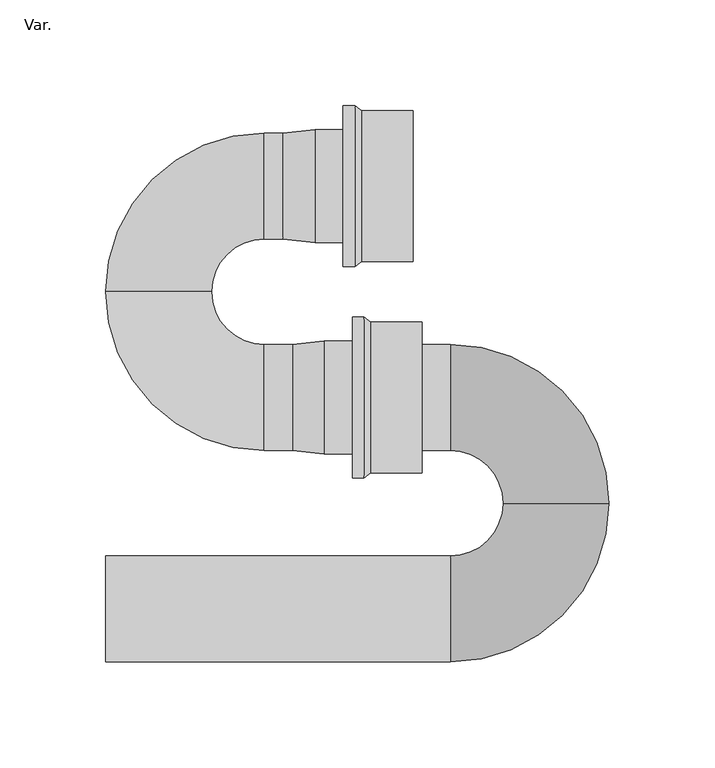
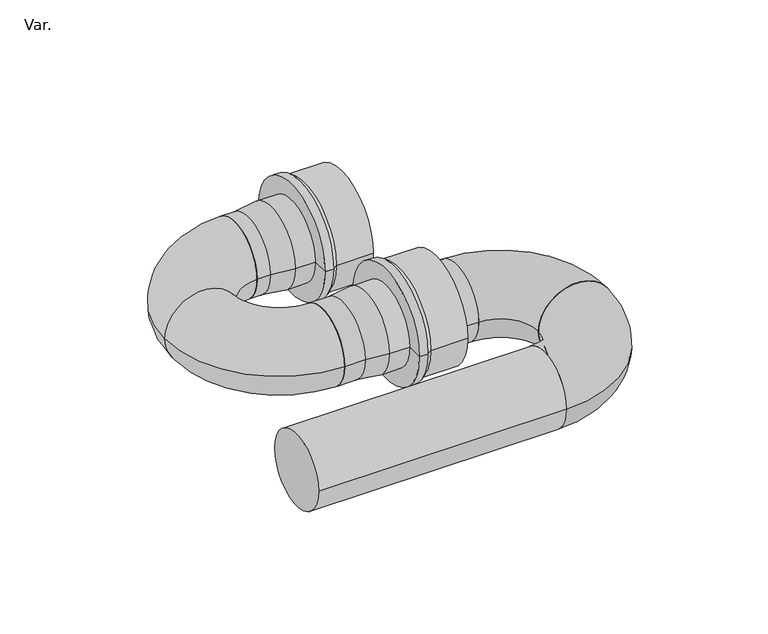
"""IFC4 building model written with IfcOpenShell, lengths in millimetres: pipe fitting geometry, PIF_HDPE s trap_Akatherm : Var.."""

from ifc_helpers import new_model, si_unit, point, frame, origin, place, context, project, spatial, polyline, circle_curve, ellipse_curve, trimmed, source, transform, mapped, element, save
from ifc_brep_helpers import plane_surface, cylinder_surface, revolved_surface, advanced_brep


def var_89c93119(model_context):
    return source(origin(), model_context, "Body", "AdvancedBrep", [
        advanced_brep(
        [(-7.5, 226.75, 0.0), (-7.5, 173.25, 0.0), (-22.5, 175.0, 0.0), (-22.5, 225.0, 0.0), (5.8, 226.75, 0.0), (5.8, 173.25, 0.0), (5.8, 238.0, 0.0), (5.8, 162.0, 0.0), (11.4, 238.0, 0.0), (11.4, 162.0, 0.0), (14.5, 235.75, 0.0), (14.5, 164.25, 0.0), (38.8, 235.75, 0.0), (38.8, 164.25, 0.0), (38.8, 200.0, 0.0), (-31.5, 175.0, 0.0), (-31.5, 225.0, 0.0)],
        [
            (0, 1, circle_curve(frame((-7.5, 200.0, 0.0), z_axis=(-1.0, 0.0, 0.0), x_axis=(0.0, -1.0, 0.0)), 26.75)),
            (1, 2),
            (2, 3, circle_curve(frame((-22.5, 200.0, 0.0), z_axis=(1.0, 0.0, 0.0), x_axis=(0.0, -1.0, 0.0)), 25.0)),
            (3, 0),
            (1, 0, circle_curve(frame((-7.5, 200.0, 0.0), z_axis=(-1.0, 0.0, 0.0), x_axis=(0.0, -1.0, 0.0)), 26.75)),
            (3, 2, circle_curve(frame((-22.5, 200.0, 0.0), z_axis=(1.0, 0.0, 0.0), x_axis=(0.0, -1.0, 0.0)), 25.0)),
            (0, 4),
            (4, 5, circle_curve(frame((5.8, 200.0, 0.0), z_axis=(-1.0, 0.0, 0.0), x_axis=(0.0, -1.0, 0.0)), 26.75)),
            (5, 1),
            (5, 4, circle_curve(frame((5.8, 200.0, 0.0), z_axis=(-1.0, 0.0, 0.0), x_axis=(0.0, -1.0, 0.0)), 26.75)),
            (4, 6),
            (6, 7, circle_curve(frame((5.8, 200.0, 0.0), z_axis=(-1.0, 0.0, 0.0), x_axis=(0.0, -1.0, 0.0)), 38.0)),
            (7, 5),
            (7, 6, circle_curve(frame((5.8, 200.0, 0.0), z_axis=(-1.0, 0.0, 0.0), x_axis=(0.0, -1.0, 0.0)), 38.0)),
            (6, 8),
            (8, 9, circle_curve(frame((11.4, 200.0, 0.0), z_axis=(-1.0, 0.0, 0.0), x_axis=(0.0, -1.0, 0.0)), 38.0)),
            (9, 7),
            (9, 8, circle_curve(frame((11.4, 200.0, 0.0), z_axis=(-1.0, 0.0, 0.0), x_axis=(0.0, -1.0, 0.0)), 38.0)),
            (8, 10),
            (10, 11, circle_curve(frame((14.5, 200.0, 0.0), z_axis=(-1.0, 0.0, 0.0), x_axis=(0.0, -1.0, 0.0)), 35.75)),
            (11, 9),
            (11, 10, circle_curve(frame((14.5, 200.0, 0.0), z_axis=(-1.0, 0.0, 0.0), x_axis=(0.0, -1.0, 0.0)), 35.75)),
            (10, 12),
            (12, 13, circle_curve(frame((38.8, 200.0, 0.0), z_axis=(-1.0, 0.0, 0.0), x_axis=(0.0, -1.0, 0.0)), 35.75)),
            (13, 11),
            (13, 12, circle_curve(frame((38.8, 200.0, 0.0), z_axis=(-1.0, 0.0, 0.0), x_axis=(0.0, -1.0, 0.0)), 35.75)),
            (12, 14),
            (14, 13),
            (15, 16, circle_curve(frame((-31.5, 200.0, 0.0), z_axis=(-1.0, 0.0, 0.0), x_axis=(0.0, 1.0, 0.0)), 25.0)),
            (16, 15, circle_curve(frame((-31.5, 200.0, 0.0), z_axis=(-1.0, 0.0, 0.0), x_axis=(0.0, 1.0, 0.0)), 25.0)),
            (16, 3),
            (2, 15),
        ],
        [
            revolved_surface(polyline([(-22.5, 175.0, 0.0), (-7.5, 173.25, 0.0)]), (-69.4130289, 200.0, 0.0), (1.0, 0.0, 0.0)),
            cylinder_surface(frame((-69.4130289, 200.0, 0.0), z_axis=(1.0, 0.0, 0.0), x_axis=(0.0, -1.0, 0.0)), 26.75),
            plane_surface(frame((5.8, 200.0, 0.0), z_axis=(-1.0, 0.0, 0.0), x_axis=(0.0, -1.0, 0.0))),
            cylinder_surface(frame((-69.4130289, 200.0, 0.0), z_axis=(1.0, 0.0, 0.0), x_axis=(0.0, -1.0, 0.0)), 38.0),
            revolved_surface(polyline([(11.4, 162.0, 0.0), (14.5, 164.25, 0.0)]), (-69.4130289, 200.0, 0.0), (1.0, 0.0, 0.0)),
            cylinder_surface(frame((-69.4130289, 200.0, 0.0), z_axis=(1.0, 0.0, 0.0), x_axis=(0.0, -1.0, 0.0)), 35.75),
            plane_surface(frame((38.8, 200.0, 0.0), z_axis=(1.0, 0.0, 0.0), x_axis=(0.0, -1.0, 0.0))),
            plane_surface(frame((-31.5, 225.0, 0.0), z_axis=(-1.0, 0.0, 0.0), x_axis=(0.0, 0.0, -1.0))),
            cylinder_surface(frame((-31.5, 200.0, 0.0), z_axis=(1.0, 0.0, 0.0), x_axis=(0.0, 1.0, 0.0)), 25.0),
        ],
        [
            (0, [[1, 2, 3, 4]]),
            (0, [[-2, 5, -4, 6]]),
            (1, [[-1, 7, 8, 9]]),
            (1, [[-5, -9, 10, -7]]),
            (2, [[-8, 11, 12, 13]]),
            (2, [[-10, -13, 14, -11]]),
            (3, [[-12, 15, 16, 17]]),
            (3, [[-14, -17, 18, -15]]),
            (4, [[-16, 19, 20, 21]]),
            (4, [[-18, -21, 22, -19]]),
            (5, [[-20, 23, 24, 25]]),
            (5, [[-22, -25, 26, -23]]),
            (6, [[-24, 27, 28]]),
            (6, [[-26, -28, -27]]),
            (7, [[29, 30]]),
            (8, [[-30, 31, -3, 32]]),
            (8, [[-29, -32, -6, -31]]),
        ],
    ),
        advanced_brep(
        [(56.5, 75.0, 0.0), (56.5, 125.0, 0.0), (-31.5, 75.0, 0.0), (-31.5, 125.0, 0.0), (43.15, 75.0, 0.0), (43.15, 125.0, 0.0), (-18.15, 125.0, 0.0), (-18.15, 75.0, 0.0), (43.15, 64.25, 0.0), (43.15, 135.75, 0.0), (-3.15, 126.75, 0.0), (-3.15, 73.25, 0.0), (10.15, 126.75, 0.0), (10.15, 73.25, 0.0), (10.15, 138.0, 0.0), (10.15, 62.0, 0.0), (15.75, 138.0, 0.0), (15.75, 62.0, 0.0), (18.85, 135.75, 0.0), (18.85, 64.25, 0.0)],
        [
            (0, 1, circle_curve(frame((56.5, 100.0, 0.0), z_axis=(1.0, 0.0, 0.0), x_axis=(0.0, 1.0, 0.0)), 25.0)),
            (1, 0, circle_curve(frame((56.5, 100.0, 0.0), z_axis=(1.0, 0.0, 0.0), x_axis=(0.0, 1.0, 0.0)), 25.0)),
            (2, 3, circle_curve(frame((-31.5, 100.0, 0.0), z_axis=(-1.0, 0.0, 0.0), x_axis=(0.0, 1.0, 0.0)), 25.0)),
            (3, 2, circle_curve(frame((-31.5, 100.0, 0.0), z_axis=(-1.0, 0.0, 0.0), x_axis=(0.0, 1.0, 0.0)), 25.0)),
            (0, 4),
            (4, 5, circle_curve(frame((43.15, 100.0, 0.0), z_axis=(1.0, 0.0, 0.0), x_axis=(0.0, 1.0, 0.0)), 25.0)),
            (5, 1),
            (3, 6),
            (6, 7, circle_curve(frame((-18.15, 100.0, 0.0), z_axis=(-1.0, 0.0, 0.0), x_axis=(0.0, 1.0, 0.0)), 25.0)),
            (7, 2),
            (5, 4, circle_curve(frame((43.15, 100.0, 0.0), z_axis=(1.0, 0.0, 0.0), x_axis=(0.0, 1.0, 0.0)), 25.0)),
            (7, 6, circle_curve(frame((-18.15, 100.0, 0.0), z_axis=(-1.0, 0.0, 0.0), x_axis=(0.0, 1.0, 0.0)), 25.0)),
            (8, 9, circle_curve(frame((43.15, 100.0, 0.0), z_axis=(1.0, 0.0, 0.0), x_axis=(0.0, -1.0, 0.0)), 35.75)),
            (9, 5),
            (4, 8),
            (9, 8, circle_curve(frame((43.15, 100.0, 0.0), z_axis=(1.0, 0.0, 0.0), x_axis=(0.0, -1.0, 0.0)), 35.75)),
            (10, 11, circle_curve(frame((-3.15, 100.0, 0.0), z_axis=(-1.0, 0.0, 0.0), x_axis=(0.0, -1.0, 0.0)), 26.75)),
            (11, 7),
            (6, 10),
            (11, 10, circle_curve(frame((-3.15, 100.0, 0.0), z_axis=(-1.0, 0.0, 0.0), x_axis=(0.0, -1.0, 0.0)), 26.75)),
            (10, 12),
            (12, 13, circle_curve(frame((10.15, 100.0, 0.0), z_axis=(-1.0, 0.0, 0.0), x_axis=(0.0, -1.0, 0.0)), 26.75)),
            (13, 11),
            (13, 12, circle_curve(frame((10.15, 100.0, 0.0), z_axis=(-1.0, 0.0, 0.0), x_axis=(0.0, -1.0, 0.0)), 26.75)),
            (12, 14),
            (14, 15, circle_curve(frame((10.15, 100.0, 0.0), z_axis=(-1.0, 0.0, 0.0), x_axis=(0.0, -1.0, 0.0)), 38.0)),
            (15, 13),
            (15, 14, circle_curve(frame((10.15, 100.0, 0.0), z_axis=(-1.0, 0.0, 0.0), x_axis=(0.0, -1.0, 0.0)), 38.0)),
            (14, 16),
            (16, 17, circle_curve(frame((15.75, 100.0, 0.0), z_axis=(-1.0, 0.0, 0.0), x_axis=(0.0, -1.0, 0.0)), 38.0)),
            (17, 15),
            (17, 16, circle_curve(frame((15.75, 100.0, 0.0), z_axis=(-1.0, 0.0, 0.0), x_axis=(0.0, -1.0, 0.0)), 38.0)),
            (16, 18),
            (18, 19, circle_curve(frame((18.85, 100.0, 0.0), z_axis=(-1.0, 0.0, 0.0), x_axis=(0.0, -1.0, 0.0)), 35.75)),
            (19, 17),
            (19, 18, circle_curve(frame((18.85, 100.0, 0.0), z_axis=(-1.0, 0.0, 0.0), x_axis=(0.0, -1.0, 0.0)), 35.75)),
            (8, 19),
            (18, 9),
        ],
        [
            plane_surface(frame((56.5, 125.0, 0.0), z_axis=(1.0, 0.0, 0.0), x_axis=(0.0, 0.0, 1.0))),
            plane_surface(frame((-31.5, 125.0, 0.0), z_axis=(-1.0, 0.0, 0.0), x_axis=(0.0, 0.0, -1.0))),
            cylinder_surface(frame((-31.5, 100.0, 0.0), z_axis=(1.0, 0.0, 0.0), x_axis=(0.0, 1.0, 0.0)), 25.0),
            plane_surface(frame((43.15, 100.0, 0.0), z_axis=(1.0, 0.0, 0.0), x_axis=(0.0, -1.0, 0.0))),
            revolved_surface(polyline([(-18.15, 75.0, 0.0), (-3.15, 73.25, 0.0)]), (53.15, 100.0, 0.0), (1.0, 0.0, 0.0)),
            cylinder_surface(frame((53.15, 100.0, 0.0), z_axis=(1.0, 0.0, 0.0), x_axis=(0.0, -1.0, 0.0)), 26.75),
            plane_surface(frame((10.15, 100.0, 0.0), z_axis=(-1.0, 0.0, 0.0), x_axis=(0.0, -1.0, 0.0))),
            cylinder_surface(frame((53.15, 100.0, 0.0), z_axis=(1.0, 0.0, 0.0), x_axis=(0.0, -1.0, 0.0)), 38.0),
            revolved_surface(polyline([(15.75, 62.0, 0.0), (18.85, 64.25, 0.0)]), (53.15, 100.0, 0.0), (1.0, 0.0, 0.0)),
            cylinder_surface(frame((53.15, 100.0, 0.0), z_axis=(1.0, 0.0, 0.0), x_axis=(0.0, -1.0, 0.0)), 35.75),
        ],
        [
            (0, [[1, 2]]),
            (1, [[3, 4]]),
            (2, [[-1, 5, 6, 7]]),
            (2, [[-4, 8, 9, 10]]),
            (2, [[-2, -7, 11, -5]]),
            (2, [[-3, -10, 12, -8]]),
            (3, [[13, 14, -6, 15]]),
            (3, [[16, -15, -11, -14]]),
            (4, [[17, 18, -9, 19]]),
            (4, [[-18, 20, -19, -12]]),
            (5, [[-17, 21, 22, 23]]),
            (5, [[-20, -23, 24, -21]]),
            (6, [[-22, 25, 26, 27]]),
            (6, [[-24, -27, 28, -25]]),
            (7, [[-26, 29, 30, 31]]),
            (7, [[-28, -31, 32, -29]]),
            (8, [[-30, 33, 34, 35]]),
            (8, [[-32, -35, 36, -33]]),
            (9, [[-13, 37, -34, 38]]),
            (9, [[-16, -38, -36, -37]]),
        ],
    ),
        advanced_brep(
        [(56.5, -25.0, 0.0), (56.5, 25.0, 0.0), (-106.5, -25.0, 0.0), (-106.5, 25.0, 0.0)],
        [
            (0, 1, circle_curve(frame((56.5, 0.0, 0.0), z_axis=(1.0, 0.0, 0.0), x_axis=(0.0, 0.0, -1.0)), 25.0)),
            (1, 0, circle_curve(frame((56.5, 0.0, 0.0), z_axis=(1.0, 0.0, 0.0), x_axis=(0.0, 0.0, 1.0)), 25.0)),
            (2, 3, circle_curve(frame((-106.5, 0.0, 0.0), z_axis=(-1.0, 0.0, 0.0), x_axis=(0.0, 0.0, 1.0)), 25.0)),
            (3, 2, circle_curve(frame((-106.5, 0.0, 0.0), z_axis=(-1.0, 0.0, 0.0), x_axis=(0.0, 0.0, -1.0)), 25.0)),
            (0, 2),
            (3, 1),
        ],
        [
            plane_surface(frame((56.5, 0.0, 0.0), z_axis=(1.0, 0.0, 0.0), x_axis=(0.0, 0.0, -1.0))),
            plane_surface(frame((-106.5, 0.0, 0.0), z_axis=(-1.0, 0.0, 0.0), x_axis=(0.0, 0.0, -1.0))),
            cylinder_surface(frame((-106.5, 0.0, 0.0), z_axis=(1.0, 0.0, 0.0), x_axis=(0.0, 0.0, -1.0)), 25.0),
            cylinder_surface(frame((-106.5, 0.0, 0.0), z_axis=(1.0, 0.0, 0.0), x_axis=(0.0, 0.0, 1.0)), 25.0),
        ],
        [
            (0, [[1, 2]]),
            (1, [[3, 4]]),
            (2, [[-1, 5, -4, 6]]),
            (3, [[-2, -6, -3, -5]]),
        ],
    ),
        advanced_brep(
        [(-31.5, 125.0, 0.0), (-31.5, 75.0, 0.0), (-56.5, 150.0, 0.0), (-106.5, 150.0, 0.0)],
        [
            (0, 1, circle_curve(frame((-31.5, 100.0, 0.0), z_axis=(1.0, 0.0, 0.0), x_axis=(0.0, -1.0, 0.0)), 25.0)),
            (1, 0, circle_curve(frame((-31.5, 100.0, 0.0), z_axis=(1.0, 0.0, 0.0), x_axis=(0.0, -1.0, 0.0)), 25.0)),
            (2, 3, circle_curve(frame((-81.5, 150.0, 0.0), z_axis=(0.0, 1.0, 0.0), x_axis=(-1.0, 0.0, 0.0)), 25.0)),
            (3, 2, circle_curve(frame((-81.5, 150.0, 0.0), z_axis=(0.0, 1.0, 0.0), x_axis=(-1.0, 0.0, 0.0)), 25.0)),
            (2, 0, circle_curve(frame((-31.5, 150.0, 0.0), z_axis=(0.0, 0.0, 1.0), x_axis=(0.0, -1.0, 0.0)), 25.0)),
            (1, 3, circle_curve(frame((-31.5, 150.0, 0.0), z_axis=(0.0, 0.0, -1.0), x_axis=(0.0, -1.0, 0.0)), 75.0)),
        ],
        [
            plane_surface(frame((-31.5, 100.0, 0.0), z_axis=(1.0, 0.0, 0.0), x_axis=(0.0, 0.0, 1.0))),
            plane_surface(frame((-81.5, 150.0, 0.0), z_axis=(0.0, 1.0, 0.0), x_axis=(0.0, 0.0, 1.0))),
            revolved_surface(trimmed(ellipse_curve(frame((-31.5, 100.0, 0.0), z_axis=(1.0, 0.0, 0.0), x_axis=(0.0, -1.0, 0.0)), 25.0, 25.0), [point((-31.5, 75.0, 0.0))], [point((-31.5, 125.0, 0.0))], True, "CARTESIAN"), (-31.5, 150.0, 0.0), (0.0, 0.0, -1.0)),
            revolved_surface(trimmed(ellipse_curve(frame((-31.5, 100.0, 0.0), z_axis=(1.0, 0.0, 0.0), x_axis=(0.0, -1.0, 0.0)), 25.0, 25.0), [point((-31.5, 125.0, 0.0))], [point((-31.5, 75.0, 0.0))], True, "CARTESIAN"), (-31.5, 150.0, 0.0), (0.0, 0.0, -1.0)),
        ],
        [
            (0, [[1, 2]]),
            (1, [[3, 4]]),
            (2, [[5, -2, 6, -3]]),
            (3, [[-6, -1, -5, -4]]),
        ],
    ),
        advanced_brep(
        [(-31.5, 225.0, 0.0), (-31.5, 175.0, 0.0), (-106.5, 150.0, 0.0), (-56.5, 150.0, 0.0)],
        [
            (0, 1, circle_curve(frame((-31.5, 200.0, 0.0), z_axis=(1.0, 0.0, 0.0), x_axis=(0.0, -1.0, 0.0)), 25.0)),
            (1, 0, circle_curve(frame((-31.5, 200.0, 0.0), z_axis=(1.0, 0.0, 0.0), x_axis=(0.0, -1.0, 0.0)), 25.0)),
            (2, 3, circle_curve(frame((-81.5, 150.0, 0.0), z_axis=(0.0, -1.0, 0.0), x_axis=(1.0, 0.0, 0.0)), 25.0)),
            (3, 2, circle_curve(frame((-81.5, 150.0, 0.0), z_axis=(0.0, -1.0, 0.0), x_axis=(1.0, 0.0, 0.0)), 25.0)),
            (3, 1, circle_curve(frame((-31.5, 150.0, 0.0), z_axis=(0.0, 0.0, -1.0), x_axis=(0.0, 1.0, 0.0)), 25.0)),
            (0, 2, circle_curve(frame((-31.5, 150.0, 0.0), z_axis=(0.0, 0.0, 1.0), x_axis=(0.0, 1.0, 0.0)), 75.0)),
        ],
        [
            plane_surface(frame((-31.5, 200.0, 0.0), z_axis=(1.0, 0.0, 0.0), x_axis=(0.0, 0.0, 1.0))),
            plane_surface(frame((-81.5, 150.0, 0.0), z_axis=(0.0, -1.0, 0.0), x_axis=(0.0, 0.0, 1.0))),
            revolved_surface(trimmed(ellipse_curve(frame((-31.5, 200.0, 0.0), z_axis=(1.0, 0.0, 0.0), x_axis=(0.0, -1.0, 0.0)), 25.0, 25.0), [point((-31.5, 225.0, 0.0))], [point((-31.5, 175.0, 0.0))], True, "CARTESIAN"), (-31.5, 150.0, 0.0), (0.0, 0.0, 1.0)),
            revolved_surface(trimmed(ellipse_curve(frame((-31.5, 200.0, 0.0), z_axis=(1.0, 0.0, 0.0), x_axis=(0.0, -1.0, 0.0)), 25.0, 25.0), [point((-31.5, 175.0, 0.0))], [point((-31.5, 225.0, 0.0))], True, "CARTESIAN"), (-31.5, 150.0, 0.0), (0.0, 0.0, 1.0)),
        ],
        [
            (0, [[1, 2]]),
            (1, [[3, 4]]),
            (2, [[5, -1, 6, -4]]),
            (3, [[-6, -2, -5, -3]]),
        ],
    ),
        advanced_brep(
        [(56.5, 75.0, 0.0), (56.5, 125.0, 0.0), (81.5, 50.0, 0.0), (131.5, 50.0, 0.0)],
        [
            (0, 1, circle_curve(frame((56.5, 100.0, 0.0), z_axis=(-1.0, 0.0, 0.0), x_axis=(0.0, 1.0, 0.0)), 25.0)),
            (1, 0, circle_curve(frame((56.5, 100.0, 0.0), z_axis=(-1.0, 0.0, 0.0), x_axis=(0.0, 1.0, 0.0)), 25.0)),
            (2, 3, circle_curve(frame((106.5, 50.0, 0.0), z_axis=(0.0, -1.0, 0.0), x_axis=(1.0, 0.0, 0.0)), 25.0)),
            (3, 2, circle_curve(frame((106.5, 50.0, 0.0), z_axis=(0.0, -1.0, 0.0), x_axis=(1.0, 0.0, 0.0)), 25.0)),
            (2, 0, circle_curve(frame((56.5, 50.0, 0.0), z_axis=(0.0, 0.0, 1.0), x_axis=(0.0, 1.0, 0.0)), 25.0)),
            (1, 3, circle_curve(frame((56.5, 50.0, 0.0), z_axis=(0.0, 0.0, -1.0), x_axis=(0.0, 1.0, 0.0)), 75.0)),
        ],
        [
            plane_surface(frame((56.5, 100.0, 0.0), z_axis=(-1.0, 0.0, 0.0), x_axis=(0.0, 0.0, 1.0))),
            plane_surface(frame((106.5, 50.0, 0.0), z_axis=(0.0, -1.0, 0.0), x_axis=(0.0, 0.0, 1.0))),
            revolved_surface(trimmed(ellipse_curve(frame((56.5, 100.0, 0.0), z_axis=(-1.0, 0.0, 0.0), x_axis=(0.0, 1.0, 0.0)), 25.0, 25.0), [point((56.5, 125.0, 0.0))], [point((56.5, 75.0, 0.0))], True, "CARTESIAN"), (56.5, 50.0, 0.0), (0.0, 0.0, -1.0)),
            revolved_surface(trimmed(ellipse_curve(frame((56.5, 100.0, 0.0), z_axis=(-1.0, 0.0, 0.0), x_axis=(0.0, 1.0, 0.0)), 25.0, 25.0), [point((56.5, 75.0, 0.0))], [point((56.5, 125.0, 0.0))], True, "CARTESIAN"), (56.5, 50.0, 0.0), (0.0, 0.0, -1.0)),
        ],
        [
            (0, [[1, 2]]),
            (1, [[3, 4]]),
            (2, [[5, -2, 6, -3]]),
            (3, [[-6, -1, -5, -4]]),
        ],
    ),
        advanced_brep(
        [(56.5, -25.0, 0.0), (56.5, 25.0, 0.0), (131.5, 50.0, 0.0), (81.5, 50.0, 0.0)],
        [
            (0, 1, circle_curve(frame((56.5, 0.0, 0.0), z_axis=(-1.0, 0.0, 0.0), x_axis=(0.0, 1.0, 0.0)), 25.0)),
            (1, 0, circle_curve(frame((56.5, 0.0, 0.0), z_axis=(-1.0, 0.0, 0.0), x_axis=(0.0, 1.0, 0.0)), 25.0)),
            (2, 3, circle_curve(frame((106.5, 50.0, 0.0), z_axis=(0.0, 1.0, 0.0), x_axis=(-1.0, 0.0, 0.0)), 25.0)),
            (3, 2, circle_curve(frame((106.5, 50.0, 0.0), z_axis=(0.0, 1.0, 0.0), x_axis=(-1.0, 0.0, 0.0)), 25.0)),
            (3, 1, circle_curve(frame((56.5, 50.0, 0.0), z_axis=(0.0, 0.0, -1.0), x_axis=(0.0, -1.0, 0.0)), 25.0)),
            (0, 2, circle_curve(frame((56.5, 50.0, 0.0), z_axis=(0.0, 0.0, 1.0), x_axis=(0.0, -1.0, 0.0)), 75.0)),
        ],
        [
            plane_surface(frame((56.5, 0.0, 0.0), z_axis=(-1.0, 0.0, 0.0), x_axis=(0.0, 0.0, 1.0))),
            plane_surface(frame((106.5, 50.0, 0.0), z_axis=(0.0, 1.0, 0.0), x_axis=(0.0, 0.0, 1.0))),
            revolved_surface(trimmed(ellipse_curve(frame((56.5, 0.0, 0.0), z_axis=(-1.0, 0.0, 0.0), x_axis=(0.0, 1.0, 0.0)), 25.0, 25.0), [point((56.5, -25.0, 0.0))], [point((56.5, 25.0, 0.0))], True, "CARTESIAN"), (56.5, 50.0, 0.0), (0.0, 0.0, 1.0)),
            revolved_surface(trimmed(ellipse_curve(frame((56.5, 0.0, 0.0), z_axis=(-1.0, 0.0, 0.0), x_axis=(0.0, 1.0, 0.0)), 25.0, 25.0), [point((56.5, 25.0, 0.0))], [point((56.5, -25.0, 0.0))], True, "CARTESIAN"), (56.5, 50.0, 0.0), (0.0, 0.0, 1.0)),
        ],
        [
            (0, [[1, 2]]),
            (1, [[3, 4]]),
            (2, [[5, -1, 6, -4]]),
            (3, [[-6, -2, -5, -3]]),
        ],
    ),
    ])


if __name__ == "__main__":
    model = new_model("IFC4")
    model_context = context("Model", 3, world=origin())
    ifc_project = project(units=[si_unit("LENGTHUNIT", "METRE", prefix="MILLI")], contexts=[model_context])
    site = spatial("IfcSite", under=ifc_project)
    building = spatial("IfcBuilding", under=site)
    placement = place(None, origin())
    var_shape = var_89c93119(model_context)
    element("IfcPipeFitting", 1, ObjectType="PIF_HDPE s trap_Akatherm : Var.", at=placement, inside=building, context=model_context, shape_type="MappedRepresentation", body=[
        mapped(var_shape, transform((0.0, 0.0, 0.0), x_axis=(1.0, 0.0, 0.0), y_axis=(0.0, 1.0, 0.0), z_axis=(0.0, 0.0, 1.0))),
    ])
    save(model, "model.ifc")
